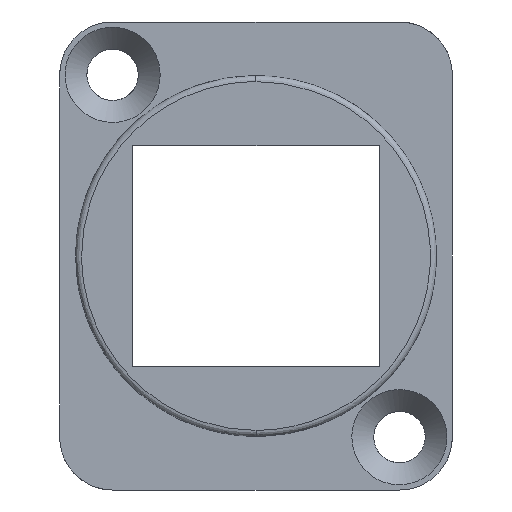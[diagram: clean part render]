
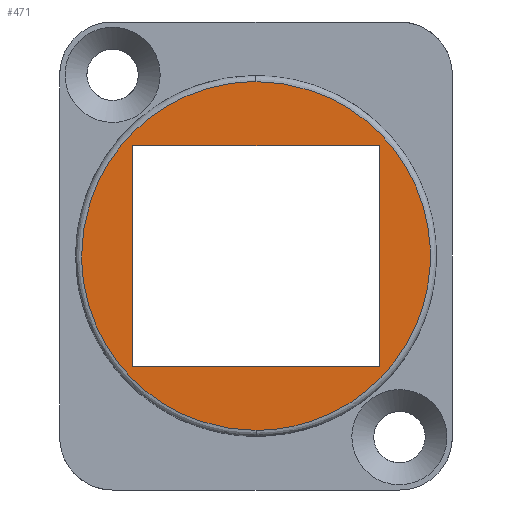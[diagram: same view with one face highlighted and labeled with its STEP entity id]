
A CAD part, front view. The second image highlights one B-rep face of the part: STEP entity #471.
In plain terms, the highlighted free-form (B-spline) face has degree [1, 1] with [2, 2] control points.
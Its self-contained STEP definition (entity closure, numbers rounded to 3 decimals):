
#76=CARTESIAN_POINT('',(0.,0.,-11.537));
#77=VERTEX_POINT('',#76);
#98=CARTESIAN_POINT('',(-11.55,0.,0.013));
#99=VERTEX_POINT('',#98);
#100=CARTESIAN_POINT('',(0.,0.,-11.537));
#101=CARTESIAN_POINT('',(-0.907,0.,-11.537));
#102=CARTESIAN_POINT('',(-1.814,0.,-11.448));
#103=CARTESIAN_POINT('',(-2.71,0.,-11.269));
#104=CARTESIAN_POINT('',(-4.454,0.,-10.74));
#105=CARTESIAN_POINT('',(-6.062,0.,-9.881));
#106=CARTESIAN_POINT('',(-6.821,0.,-9.374));
#107=CARTESIAN_POINT('',(-8.23,0.,-8.217));
#108=CARTESIAN_POINT('',(-9.387,0.,-6.808));
#109=CARTESIAN_POINT('',(-9.894,0.,-6.049));
#110=CARTESIAN_POINT('',(-10.753,0.,-4.441));
#111=CARTESIAN_POINT('',(-11.283,0.,-2.696));
#112=CARTESIAN_POINT('',(-11.461,0.,-1.801));
#113=CARTESIAN_POINT('',(-11.55,0.,-0.894));
#114=CARTESIAN_POINT('',(-11.55,0.,0.013));
#115=B_SPLINE_CURVE_WITH_KNOTS('',5,(#100,#101,#102,#103,#104,#105,#106,#107,#108,#109,#110,#111,#112,#113,#114),.UNSPECIFIED.,.F.,.U.,(6,3,3,3,6),(0.,0.393,0.785,1.178,1.571),.UNSPECIFIED.);
#116=EDGE_CURVE('',#77,#99,#115,.T.);
#118=CARTESIAN_POINT('',(0.,0.,11.563));
#119=VERTEX_POINT('',#118);
#120=CARTESIAN_POINT('',(-11.55,0.,0.013));
#121=CARTESIAN_POINT('',(-11.55,0.,0.921));
#122=CARTESIAN_POINT('',(-11.461,0.,1.828));
#123=CARTESIAN_POINT('',(-11.283,0.,2.723));
#124=CARTESIAN_POINT('',(-10.753,0.,4.467));
#125=CARTESIAN_POINT('',(-9.894,0.,6.075));
#126=CARTESIAN_POINT('',(-9.387,0.,6.835));
#127=CARTESIAN_POINT('',(-8.23,0.,8.243));
#128=CARTESIAN_POINT('',(-6.821,0.,9.4));
#129=CARTESIAN_POINT('',(-6.062,0.,9.908));
#130=CARTESIAN_POINT('',(-4.454,0.,10.766));
#131=CARTESIAN_POINT('',(-2.71,0.,11.296));
#132=CARTESIAN_POINT('',(-1.814,0.,11.474));
#133=CARTESIAN_POINT('',(-0.907,0.,11.563));
#134=CARTESIAN_POINT('',(0.,0.,11.563));
#135=B_SPLINE_CURVE_WITH_KNOTS('',5,(#120,#121,#122,#123,#124,#125,#126,#127,#128,#129,#130,#131,#132,#133,#134),.UNSPECIFIED.,.F.,.U.,(6,3,3,3,6),(0.,0.393,0.785,1.178,1.571),.UNSPECIFIED.);
#136=EDGE_CURVE('',#99,#119,#135,.T.);
#277=CARTESIAN_POINT('',(0.,0.,11.563));
#278=CARTESIAN_POINT('',(0.907,0.,11.563));
#279=CARTESIAN_POINT('',(1.814,0.,11.474));
#280=CARTESIAN_POINT('',(2.71,0.,11.296));
#281=CARTESIAN_POINT('',(4.454,0.,10.766));
#282=CARTESIAN_POINT('',(6.062,0.,9.908));
#283=CARTESIAN_POINT('',(6.821,0.,9.4));
#284=CARTESIAN_POINT('',(8.23,0.,8.243));
#285=CARTESIAN_POINT('',(9.387,0.,6.835));
#286=CARTESIAN_POINT('',(9.894,0.,6.075));
#287=CARTESIAN_POINT('',(10.753,0.,4.467));
#288=CARTESIAN_POINT('',(11.283,0.,2.723));
#289=CARTESIAN_POINT('',(11.461,0.,1.828));
#290=CARTESIAN_POINT('',(11.639,0.,0.013));
#291=CARTESIAN_POINT('',(11.461,0.,-1.801));
#292=CARTESIAN_POINT('',(11.283,0.,-2.696));
#293=CARTESIAN_POINT('',(10.753,0.,-4.441));
#294=CARTESIAN_POINT('',(9.894,0.,-6.049));
#295=CARTESIAN_POINT('',(9.387,0.,-6.808));
#296=CARTESIAN_POINT('',(8.23,0.,-8.217));
#297=CARTESIAN_POINT('',(6.821,0.,-9.374));
#298=CARTESIAN_POINT('',(6.062,0.,-9.881));
#299=CARTESIAN_POINT('',(4.454,0.,-10.74));
#300=CARTESIAN_POINT('',(2.71,0.,-11.269));
#301=CARTESIAN_POINT('',(1.814,0.,-11.448));
#302=CARTESIAN_POINT('',(0.907,0.,-11.537));
#303=CARTESIAN_POINT('',(0.,0.,-11.537));
#304=B_SPLINE_CURVE_WITH_KNOTS('',5,(#277,#278,#279,#280,#281,#282,#283,#284,#285,#286,#287,#288,#289,#290,#291,#292,#293,#294,#295,#296,#297,#298,#299,#300,#301,#302,#303),.UNSPECIFIED.,.F.,.U.,(6,3,3,3,3,3,3,3,6),(0.,0.393,0.785,1.178,1.571,1.963,2.356,2.749,3.142),.UNSPECIFIED.);
#305=EDGE_CURVE('',#119,#77,#304,.T.);
#415=CARTESIAN_POINT('',(-11.55,0.,-11.537));
#416=CARTESIAN_POINT('',(11.55,0.,-11.537));
#417=CARTESIAN_POINT('',(-11.55,0.,11.563));
#418=CARTESIAN_POINT('',(11.55,0.,11.563));
#419=B_SPLINE_SURFACE_WITH_KNOTS('',1,1,((#415,#416),(#417,#418)),.PLANE_SURF.,.F.,.F.,.U.,(2,2),(2,2),(0.,1.),(0.,1.),.UNSPECIFIED.);
#420=ORIENTED_EDGE('',*,*,#305,.T.);
#421=ORIENTED_EDGE('',*,*,#116,.T.);
#422=ORIENTED_EDGE('',*,*,#136,.T.);
#423=EDGE_LOOP('',(#420,#421,#422));
#424=FACE_OUTER_BOUND('',#423,.F.);
#425=CARTESIAN_POINT('',(-8.15,0.,7.325));
#426=VERTEX_POINT('',#425);
#427=CARTESIAN_POINT('',(8.15,0.,7.325));
#428=VERTEX_POINT('',#427);
#429=CARTESIAN_POINT('',(-8.15,0.,7.325));
#430=CARTESIAN_POINT('',(-4.89,0.,7.325));
#431=CARTESIAN_POINT('',(-1.63,0.,7.325));
#432=CARTESIAN_POINT('',(1.63,0.,7.325));
#433=CARTESIAN_POINT('',(4.89,0.,7.325));
#434=CARTESIAN_POINT('',(8.15,0.,7.325));
#435=B_SPLINE_CURVE_WITH_KNOTS('',5,(#429,#430,#431,#432,#433,#434),.UNSPECIFIED.,.F.,.U.,(6,6),(0.,16.3),.UNSPECIFIED.);
#436=EDGE_CURVE('',#426,#428,#435,.T.);
#437=ORIENTED_EDGE('',*,*,#436,.F.);
#438=CARTESIAN_POINT('',(-8.15,0.,-7.325));
#439=VERTEX_POINT('',#438);
#440=CARTESIAN_POINT('',(-8.15,0.,-7.325));
#441=CARTESIAN_POINT('',(-8.15,0.,-4.395));
#442=CARTESIAN_POINT('',(-8.15,0.,-1.465));
#443=CARTESIAN_POINT('',(-8.15,0.,1.465));
#444=CARTESIAN_POINT('',(-8.15,0.,4.395));
#445=CARTESIAN_POINT('',(-8.15,0.,7.325));
#446=B_SPLINE_CURVE_WITH_KNOTS('',5,(#440,#441,#442,#443,#444,#445),.UNSPECIFIED.,.F.,.U.,(6,6),(0.,14.65),.UNSPECIFIED.);
#447=EDGE_CURVE('',#439,#426,#446,.T.);
#448=ORIENTED_EDGE('',*,*,#447,.F.);
#449=CARTESIAN_POINT('',(8.15,0.,-7.325));
#450=VERTEX_POINT('',#449);
#451=CARTESIAN_POINT('',(8.15,0.,-7.325));
#452=CARTESIAN_POINT('',(4.89,0.,-7.325));
#453=CARTESIAN_POINT('',(1.63,0.,-7.325));
#454=CARTESIAN_POINT('',(-1.63,0.,-7.325));
#455=CARTESIAN_POINT('',(-4.89,0.,-7.325));
#456=CARTESIAN_POINT('',(-8.15,0.,-7.325));
#457=B_SPLINE_CURVE_WITH_KNOTS('',5,(#451,#452,#453,#454,#455,#456),.UNSPECIFIED.,.F.,.U.,(6,6),(0.,16.3),.UNSPECIFIED.);
#458=EDGE_CURVE('',#450,#439,#457,.T.);
#459=ORIENTED_EDGE('',*,*,#458,.F.);
#460=CARTESIAN_POINT('',(8.15,0.,7.325));
#461=CARTESIAN_POINT('',(8.15,0.,4.395));
#462=CARTESIAN_POINT('',(8.15,0.,1.465));
#463=CARTESIAN_POINT('',(8.15,0.,-1.465));
#464=CARTESIAN_POINT('',(8.15,0.,-4.395));
#465=CARTESIAN_POINT('',(8.15,0.,-7.325));
#466=B_SPLINE_CURVE_WITH_KNOTS('',5,(#460,#461,#462,#463,#464,#465),.UNSPECIFIED.,.F.,.U.,(6,6),(0.,14.65),.UNSPECIFIED.);
#467=EDGE_CURVE('',#428,#450,#466,.T.);
#468=ORIENTED_EDGE('',*,*,#467,.F.);
#469=EDGE_LOOP('',(#437,#448,#459,#468));
#470=FACE_BOUND('',#469,.F.);
#471=ADVANCED_FACE('',(#424,#470),#419,.F.);
